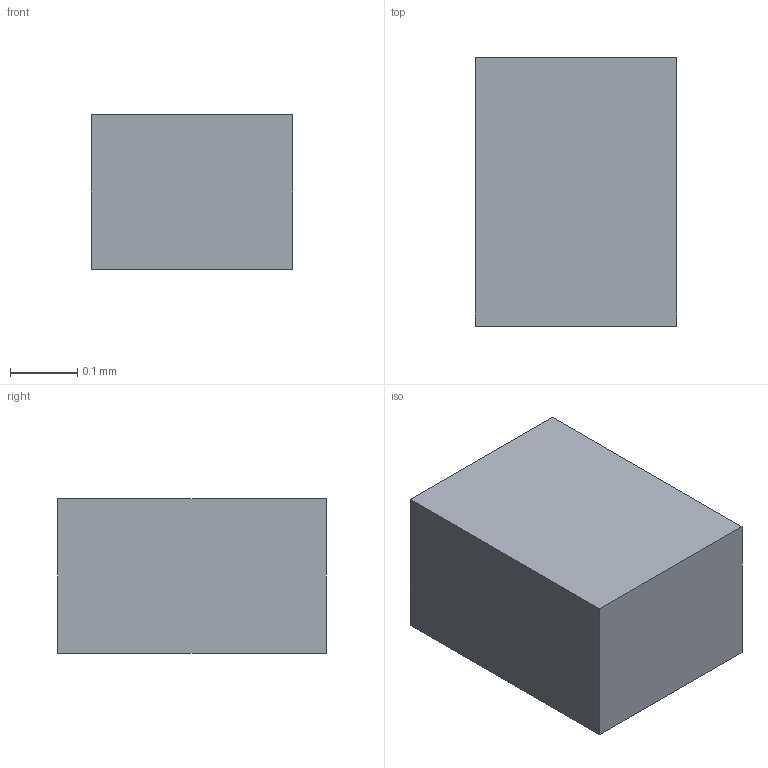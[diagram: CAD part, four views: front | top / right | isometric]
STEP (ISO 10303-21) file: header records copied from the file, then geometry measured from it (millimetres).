
FILE_DESCRIPTION(/* description */ ('STEP AP242 Edition 2','CAx-IF Rec.Pracs.---Representation and Presentation of Product Manufacturing Information (PMI)---4.0---2014-10-13','CAx-IF Rec.Pracs.---3D Tessellated Geometry---0.4---2014-09-14','2;1','CAx-IF Rec.Pracs.---User Defined Attributes---1.5---2016-08-15'),/* implementation_level */ '2;1');
FILE_NAME(/* name */ 'HIRO_Assembly - SMD Resistor, Configurable, Raspberry Pi Pico-R3_R13 (1)',/* time_stamp */ '2026-11-04T05:23:29Z',/* author */ (''),/* organization */ (''),/* preprocessor_version */ 'ST-DEVELOPER v20',/* originating_system */ 'ONSHAPE BY PTC INC, 1.223',/* authorisation */ ' ');
FILE_SCHEMA (('AP242_MANAGED_MODEL_BASED_3D_ENGINEERING_MIM_LF { 1 0 10303 442 3 1 4 }'));
Length unit declared in the file: metre
Products named in the file (1): SMD Resistor, Configurable, Raspberry Pi Pico-R3_R13
Bounding box: 0.3 x 0.4 x 0.23 mm (x, y, z)
Volume: 0 mm3; surface area: 0.6 mm2
Topology: 1 solids, 1 shells, 6 faces, 12 edges, 8 vertices
Faces by surface type: plane 6
Entity records: 221 total; most frequent: CARTESIAN_POINT 27, DIRECTION 26, ORIENTED_EDGE 24, EDGE_CURVE 12, LINE 12, VECTOR 12, VERTEX_POINT 8, PRESENTATION_STYLE_ASSIGNMENT 7
